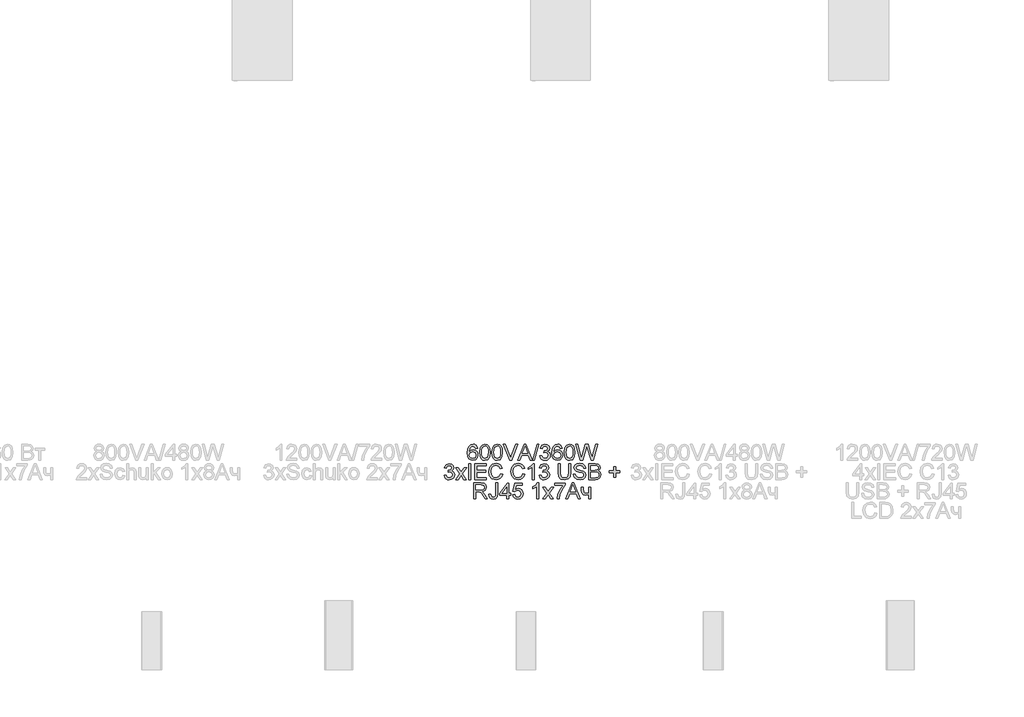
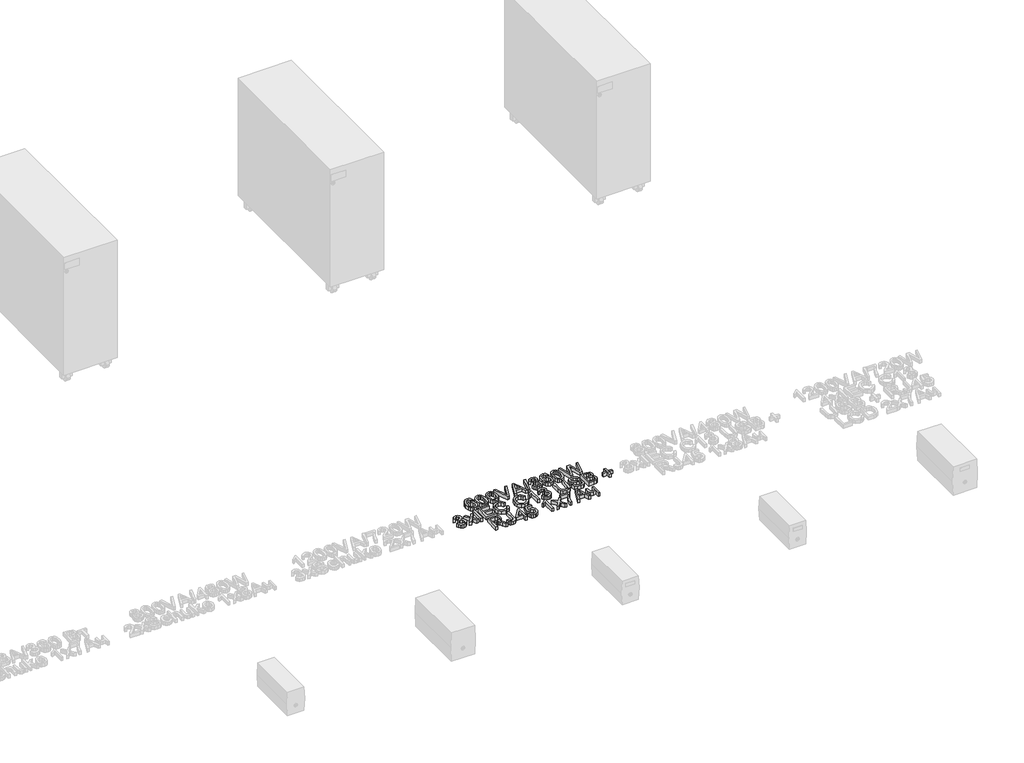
# One storey, part 39 of 74: 1 proxy.
"""IFC4 building model written with IfcOpenShell, lengths in millimetres."""

from ifc_helpers import new_model, si_unit, origin, origin_with_axes, place, context, project, spatial, polyline, outline, extrude, element, save

model = new_model("IFC4")

# Units and contexts
model_context = context("Model", 3, world=origin())
ifc_project = project(units=[si_unit("LENGTHUNIT", "METRE", prefix="MILLI")], contexts=[model_context])

# Site, building, storey
site = spatial("IfcSite", under=ifc_project)
building = spatial("IfcBuilding", under=site)
storey = spatial("IfcBuildingStorey", under=building, Name="Этаж 01", Elevation=0.0)

# Proxy
placement = place(None, origin())
element("IfcBuildingElementProxy", 1, Name="80 мм Arial", ObjectType="80 мм Arial", at=placement, inside=storey, context=model_context, shape_type="SweptSolid", body=[
    extrude(outline(polyline([(3936.3389235, -10967.6152437), (3926.2932925, -10968.8709476), (3922.4869401, -10960.4930483), (3912.4216887, -10956.3139089), (3903.3570764, -10958.7468351), (3896.499756, -10967.8801188), (3893.6449917, -10985.7837092), (3902.5035901, -10977.7687868), (3913.4811889, -10975.149467), (3922.7616253, -10976.9398261), (3930.5509135, -10982.3109032), (3935.8336989, -10990.5171242), (3937.5946274, -11000.812915), (3934.2787843, -11014.6747086), (3925.1553109, -11024.4848951), (3911.9900405, -11027.8890298), (3900.5930563, -11025.6326869), (3891.5161812, -11018.8636582), (3885.5785658, -11006.914851), (3883.5993607, -10989.1191726), (3885.7968425, -10969.1112972), (3892.3892878, -10955.4309921), (3901.390134, -10948.5589564), (3913.0495407, -10946.2682778), (3921.8639933, -10947.6858498), (3928.9224225, -10951.9385657), (3936.3389235, -10967.6152437)]), holes=[polyline([(3893.6449917, -11000.655952), (3895.9700059, -11009.3575875), (3902.1504234, -11015.6753476), (3911.2052256, -11017.8433988), (3923.0461208, -11013.3503334), (3927.5489964, -11001.1464613), (3923.1049819, -10989.4625292), (3910.7931978, -10985.195098), (3898.6383766, -10989.4625292), (3893.6449917, -11000.655952)])]), origin_with_axes(), (0.0, 0.0, 1.0), 20.0),
    extrude(outline(polyline([(3946.3845545, -10987.0982742), (3949.3374207, -10963.9756645), (3958.1077274, -10950.643621), (3972.7543359, -10946.2682778), (3984.487319, -10948.8581671), (3992.5905331, -10956.323719), (3997.2994227, -10968.2136651), (3999.1241174, -10987.0982742), (3996.2006818, -11010.122782), (3987.4598056, -11023.4842561), (3972.7543359, -11027.8890298), (3962.3162975, -11025.9760435), (3954.3896667, -11020.2370843), (3948.3858326, -11006.6450709), (3946.3845545, -10987.0982742)]), holes=[polyline([(3956.4301855, -10987.0786538), (3957.6074079, -11002.8804118), (3961.1390751, -11012.0259582), (3972.7543359, -11017.8433988), (3984.3695968, -11012.0063378), (3987.901264, -11002.8558863), (3989.0784863, -10987.0786538), (3987.9405047, -10971.6325151), (3984.5265598, -10962.4158449), (3979.27811, -10957.8393929), (3972.6366137, -10956.3139089), (3961.2960381, -10961.6898911), (3957.6466487, -10971.4804572), (3956.4301855, -10987.0786538)])]), origin_with_axes(), (0.0, 0.0, 1.0), 20.0),
    extrude(outline(polyline([(4007.9140445, -10987.0982742), (4010.8669106, -10963.9756645), (4019.6372174, -10950.643621), (4034.2838259, -10946.2682778), (4046.016809, -10948.8581671), (4054.1200231, -10956.323719), (4058.8289126, -10968.2136651), (4060.6536073, -10987.0982742), (4057.7301717, -11010.122782), (4048.9892955, -11023.4842561), (4034.2838259, -11027.8890298), (4023.8457874, -11025.9760435), (4015.9191567, -11020.2370843), (4009.9153225, -11006.6450709), (4007.9140445, -10987.0982742)]), holes=[polyline([(4017.9596755, -10987.0786538), (4019.1368979, -11002.8804118), (4022.668565, -11012.0259582), (4034.2838259, -11017.8433988), (4045.8990868, -11012.0063378), (4049.4307539, -11002.8558863), (4050.6079763, -10987.0786538), (4049.4699947, -10971.6325151), (4046.0560498, -10962.4158449), (4040.8076, -10957.8393929), (4034.1661037, -10956.3139089), (4022.825528, -10961.6898911), (4019.1761386, -10971.4804572), (4017.9596755, -10987.0786538)])]), origin_with_axes(), (0.0, 0.0, 1.0), 20.0),
    extrude(outline(polyline([(4096.9512975, -11026.633326), (4064.9700894, -10946.2682778), (4075.7220538, -10946.2682778), (4097.1278809, -11004.1679988), (4101.4639833, -11017.2155469), (4105.7412247, -11004.1679988), (4127.2059128, -10946.2682778), (4137.9578772, -10946.2682778), (4107.3304749, -11026.633326), (4096.9512975, -11026.633326)])), origin_with_axes(), (0.0, 0.0, 1.0), 20.0),
    extrude(outline(polyline([(4137.9382569, -11026.633326), (4170.0175668, -10946.2682778), (4178.5720495, -10946.2682778), (4210.6513595, -11026.633326), (4200.0367377, -11026.633326), (4190.8347827, -11001.5192484), (4157.7352133, -11001.5192484), (4148.5528787, -11026.633326), (4137.9382569, -11026.633326)]), holes=[polyline([(4161.4238434, -10991.4736174), (4187.1657729, -10991.4736174), (4179.9258553, -10971.7159017), (4174.2948082, -10956.3139089), (4169.291613, -10969.9893089), (4161.4238434, -10991.4736174)])]), origin_with_axes(), (0.0, 0.0, 1.0), 20.0),
    extrude(outline(polyline([(4212.5937764, -11026.633326), (4235.1964462, -10946.2682778), (4244.2610586, -10946.2682778), (4221.6583888, -11026.633326), (4212.5937764, -11026.633326)])), origin_with_axes(), (0.0, 0.0, 1.0), 20.0),
    extrude(outline(polyline([(4249.0091889, -11005.2863601), (4259.0548199, -11004.0306562), (4264.5975753, -11014.6060373), (4274.9669424, -11017.8433988), (4287.1708145, -11013.3895741), (4291.7031207, -11002.3629245), (4287.2100552, -10991.9739369), (4275.7909981, -10987.8634688), (4268.7472842, -10988.9622097), (4269.8656454, -10978.9165786), (4271.474516, -10979.0343009), (4282.8739528, -10976.150106), (4287.936009, -10967.2816974), (4284.2669993, -10959.423738), (4274.8099794, -10956.3139089), (4265.2352374, -10959.4531685), (4260.3105237, -10968.8709476), (4250.2648927, -10967.6152437), (4258.485829, -10951.8600842), (4274.4568127, -10946.2682778), (4286.5723931, -10949.0249403), (4295.0483943, -10956.5591635), (4297.98164, -10966.6930862), (4295.1955471, -10975.9539023), (4286.9549904, -10982.6052088), (4297.9031586, -10989.4723394), (4301.7487517, -11002.5395078), (4299.8259551, -11012.330074), (4294.0575654, -11020.5117696), (4285.3510249, -11026.0447148), (4274.6137757, -11027.8890298), (4264.901691, -11026.3144949), (4256.9946807, -11021.5908901), (4251.4960711, -11014.3656877), (4249.0091889, -11005.2863601)])), origin_with_axes(), (0.0, 0.0, 1.0), 20.0),
    extrude(outline(polyline([(4362.0225378, -10967.6152437), (4351.9769068, -10968.8709476), (4348.1705544, -10960.4930483), (4338.105303, -10956.3139089), (4329.0406906, -10958.7468351), (4322.1833702, -10967.8801188), (4319.328606, -10985.7837092), (4328.1872044, -10977.7687868), (4339.1648031, -10975.149467), (4348.4452396, -10976.9398261), (4356.2345277, -10982.3109032), (4361.5173132, -10990.5171242), (4363.2782416, -11000.812915), (4359.9623986, -11014.6747086), (4350.8389251, -11024.4848951), (4337.6736548, -11027.8890298), (4326.2766706, -11025.6326869), (4317.1997955, -11018.8636582), (4311.2621801, -11006.914851), (4309.2829749, -10989.1191726), (4311.4804567, -10969.1112972), (4318.0729021, -10955.4309921), (4327.0737482, -10948.5589564), (4338.7331549, -10946.2682778), (4347.5476075, -10947.6858498), (4354.6060367, -10951.9385657), (4362.0225378, -10967.6152437)]), holes=[polyline([(4319.328606, -11000.655952), (4321.6536202, -11009.3575875), (4327.8340377, -11015.6753476), (4336.8888399, -11017.8433988), (4348.729735, -11013.3503334), (4353.2326106, -11001.1464613), (4348.7885961, -10989.4625292), (4336.476812, -10985.195098), (4324.3219909, -10989.4625292), (4319.328606, -11000.655952)])]), origin_with_axes(), (0.0, 0.0, 1.0), 20.0),
    extrude(outline(polyline([(4372.0681688, -10987.0982742), (4375.0210349, -10963.9756645), (4383.7913417, -10950.643621), (4398.4379502, -10946.2682778), (4410.1709333, -10948.8581671), (4418.2741474, -10956.323719), (4422.9830369, -10968.2136651), (4424.8077316, -10987.0982742), (4421.884296, -11010.122782), (4413.1434198, -11023.4842561), (4398.4379502, -11027.8890298), (4387.9999117, -11025.9760435), (4380.073281, -11020.2370843), (4374.0694468, -11006.6450709), (4372.0681688, -10987.0982742)]), holes=[polyline([(4382.1137998, -10987.0786538), (4383.2910222, -11002.8804118), (4386.8226893, -11012.0259582), (4398.4379502, -11017.8433988), (4410.0532111, -11012.0063378), (4413.5848782, -11002.8558863), (4414.7621006, -10987.0786538), (4413.624119, -10971.6325151), (4410.210174, -10962.4158449), (4404.9617242, -10957.8393929), (4398.320228, -10956.3139089), (4386.9796523, -10961.6898911), (4383.3302629, -10971.4804572), (4382.1137998, -10987.0786538)])]), origin_with_axes(), (0.0, 0.0, 1.0), 20.0),
    extrude(outline(polyline([(4451.7465038, -11026.633326), (4429.8305471, -10946.2682778), (4440.1901041, -10946.2682778), (4452.9041059, -10999.0863222), (4456.8281805, -11015.3908522), (4461.0269403, -11000.969878), (4476.9586833, -10946.2682778), (4491.8897872, -10946.2682778), (4503.4658073, -10985.9210518), (4512.0791511, -11015.3908522), (4515.8855034, -10999.5572111), (4528.7172274, -10946.2682778), (4539.0767844, -10946.2682778), (4517.1412073, -11026.633326), (4506.4088632, -11026.633326), (4487.1416569, -10964.632947), (4484.4536658, -10955.9803625), (4481.4321283, -10966.3987806), (4463.8718944, -11026.633326), (4451.7465038, -11026.633326)])), origin_with_axes(), (0.0, 0.0, 1.0), 20.0),
    extrude(outline(polyline([(3767.4467521, -11102.8662143), (3777.4923831, -11101.6105105), (3783.0351385, -11112.1858915), (3793.4045057, -11115.4232531), (3805.6083777, -11110.9694284), (3810.1406839, -11099.9427787), (3805.6476185, -11089.5537912), (3794.2285613, -11085.443323), (3787.1848474, -11086.5420639), (3788.3032087, -11076.4964329), (3789.9120792, -11076.6141552), (3801.311516, -11073.7299603), (3806.3735723, -11064.8615517), (3802.7045625, -11057.0035923), (3793.2475427, -11053.8937631), (3783.6728006, -11057.0330228), (3778.748087, -11066.4508019), (3768.7024559, -11065.195098), (3776.9233923, -11049.4399384), (3792.894376, -11043.8481321), (3805.0099563, -11046.6047945), (3813.4859575, -11054.1390178), (3816.4192033, -11064.2729405), (3813.6331103, -11073.5337566), (3805.3925536, -11080.1850631), (3816.3407218, -11087.0521936), (3820.1863149, -11100.1193621), (3818.2635183, -11109.9099283), (3812.4951287, -11118.0916238), (3803.7885881, -11123.624569), (3793.0513389, -11125.4688841), (3783.3392543, -11123.8943492), (3775.4322439, -11119.1707444), (3769.9336344, -11111.945542), (3767.4467521, -11102.8662143)])), origin_with_axes(), (0.0, 0.0, 1.0), 20.0),
    extrude(outline(polyline([(3825.2091304, -11124.2131802), (3846.6738186, -11094.5471761), (3826.4648343, -11065.195098), (3838.5509841, -11065.195098), (3848.3023095, -11079.3217666), (3852.8542361, -11085.9926935), (3856.7979311, -11080.5382298), (3867.9030622, -11065.195098), (3879.989212, -11065.195098), (3858.7599684, -11094.5471761), (3879.2043971, -11124.2131802), (3867.1182473, -11124.2131802), (3854.8162734, -11106.3782611), (3852.5599305, -11103.1212792), (3837.2952802, -11124.2131802), (3825.2091304, -11124.2131802)])), origin_with_axes(), (0.0, 0.0, 1.0), 20.0),
    extrude(outline(polyline([(3890.505732, -11124.2131802), (3890.505732, -11043.8481321), (3900.551363, -11043.8481321), (3900.551363, -11124.2131802), (3890.505732, -11124.2131802)])), origin_with_axes(), (0.0, 0.0, 1.0), 20.0),
    extrude(outline(polyline([(3920.6426251, -11124.2131802), (3920.6426251, -11043.8481321), (3978.4050034, -11043.8481321), (3978.4050034, -11053.8937631), (3930.6882561, -11053.8937631), (3930.6882561, -11077.7521368), (3975.8935956, -11077.7521368), (3975.8935956, -11087.7977678), (3930.6882561, -11087.7977678), (3930.6882561, -11114.1675492), (3979.6607073, -11114.1675492), (3979.6607073, -11124.2131802), (3920.6426251, -11124.2131802)])), origin_with_axes(), (0.0, 0.0, 1.0), 20.0),
    extrude(outline(polyline([(4051.2358282, -11095.645917), (4061.2814593, -11098.2358063), (4056.6461461, -11109.9418114), (4049.3718928, -11118.4938415), (4039.8167711, -11123.7251235), (4028.3388529, -11125.4688841), (4007.4333454, -11120.1910038), (3995.1706122, -11104.9067331), (3990.9620422, -11083.4224246), (3995.7199826, -11061.5849494), (4009.2482299, -11047.4288502), (4028.554677, -11042.5924282), (4039.5690639, -11044.157153), (4048.6753696, -11048.8513273), (4055.5890985, -11056.3855505), (4060.0257554, -11066.4704223), (4049.9801244, -11068.8641078), (4041.7395677, -11056.5130829), (4028.1622695, -11052.6380593), (4012.4463507, -11056.934921), (4003.5681319, -11068.4717003), (4001.0076732, -11083.4028042), (4004.0390208, -11100.7079733), (4013.4764203, -11111.7640535), (4027.3382138, -11115.4232531), (4042.7107761, -11110.4396783), (4051.2358282, -11095.645917)])), origin_with_axes(), (0.0, 0.0, 1.0), 20.0),
    extrude(outline(polyline([(4162.9934733, -11095.645917), (4173.0391043, -11098.2358063), (4168.4037912, -11109.9418114), (4161.1295378, -11118.4938415), (4151.5744162, -11123.7251235), (4140.0964979, -11125.4688841), (4119.1909904, -11120.1910038), (4106.9282572, -11104.9067331), (4102.7196872, -11083.4224246), (4107.4776277, -11061.5849494), (4121.0058749, -11047.4288502), (4140.312322, -11042.5924282), (4151.3267089, -11044.157153), (4160.4330146, -11048.8513273), (4167.3467436, -11056.3855505), (4171.7834004, -11066.4704223), (4161.7377694, -11068.8641078), (4153.4972127, -11056.5130829), (4139.9199145, -11052.6380593), (4124.2039957, -11056.934921), (4115.3257769, -11068.4717003), (4112.7653182, -11083.4028042), (4115.7966659, -11100.7079733), (4125.2340653, -11111.7640535), (4139.0958589, -11115.4232531), (4154.4684212, -11110.4396783), (4162.9934733, -11095.645917)])), origin_with_axes(), (0.0, 0.0, 1.0), 20.0),
    extrude(outline(polyline([(4220.7558516, -11124.2131802), (4210.7102206, -11124.2131802), (4210.7102206, -11061.5849494), (4201.1943397, -11068.3637883), (4190.6189586, -11073.4356547), (4190.6189586, -11063.9393941), (4205.3440486, -11054.5412354), (4214.2811285, -11043.8481321), (4220.7558516, -11043.8481321), (4220.7558516, -11124.2131802)])), origin_with_axes(), (0.0, 0.0, 1.0), 20.0),
    extrude(outline(polyline([(4244.6142253, -11102.8662143), (4254.6598563, -11101.6105105), (4260.2026117, -11112.1858915), (4270.5719789, -11115.4232531), (4282.7758509, -11110.9694284), (4287.3081571, -11099.9427787), (4282.8150917, -11089.5537912), (4271.3960345, -11085.443323), (4264.3523206, -11086.5420639), (4265.4706819, -11076.4964329), (4267.0795525, -11076.6141552), (4278.4789892, -11073.7299603), (4283.5410455, -11064.8615517), (4279.8720357, -11057.0035923), (4270.4150159, -11053.8937631), (4260.8402738, -11057.0330228), (4255.9155602, -11066.4508019), (4245.8699292, -11065.195098), (4254.0908655, -11049.4399384), (4270.0618492, -11043.8481321), (4282.1774295, -11046.6047945), (4290.6534307, -11054.1390178), (4293.5866765, -11064.2729405), (4290.8005835, -11073.5337566), (4282.5600268, -11080.1850631), (4293.508195, -11087.0521936), (4297.3537881, -11100.1193621), (4295.4309916, -11109.9099283), (4289.6626019, -11118.0916238), (4280.9560613, -11123.624569), (4270.2188121, -11125.4688841), (4260.5067275, -11123.8943492), (4252.5997171, -11119.1707444), (4247.1011076, -11111.945542), (4244.6142253, -11102.8662143)])), origin_with_axes(), (0.0, 0.0, 1.0), 20.0),
    extrude(outline(polyline([(4394.0429866, -11043.8481321), (4404.0886176, -11043.8481321), (4404.0886176, -11090.2110737), (4401.3613858, -11109.4292291), (4391.5315789, -11121.0052492), (4372.8922245, -11125.4688841), (4354.5373654, -11121.5840502), (4344.3543918, -11110.3317663), (4341.3034238, -11090.2110737), (4341.3034238, -11043.8481321), (4351.3490548, -11043.8481321), (4351.3490548, -11089.857907), (4353.3307125, -11105.1716082), (4360.138982, -11112.7548824), (4371.9504465, -11115.4232531), (4382.1677558, -11114.103783), (4388.96131, -11110.1453727), (4392.7725675, -11102.4345661), (4394.0429866, -11089.857907), (4394.0429866, -11043.8481321)])), origin_with_axes(), (0.0, 0.0, 1.0), 20.0),
    extrude(outline(polyline([(4417.9013603, -11096.5876949), (4427.9469913, -11096.5876949), (4431.1843529, -11106.6431361), (4439.0913632, -11113.000137), (4451.1382723, -11115.4232531), (4461.6351719, -11113.5887482), (4468.4140108, -11108.5463123), (4470.6409231, -11101.8067142), (4468.9731914, -11095.538005), (4462.1453016, -11090.9762682), (4447.5183134, -11087.1404853), (4431.7729641, -11082.1863411), (4423.2282916, -11074.710979), (4420.412768, -11064.7242091), (4423.8953843, -11053.3542029), (4434.0685477, -11045.3294703), (4448.9604109, -11042.5924282), (4464.8529131, -11045.4570027), (4475.4479145, -11053.8741428), (4479.4308503, -11066.4508019), (4469.3852192, -11066.4508019), (4463.6953111, -11056.1304857), (4449.3528183, -11052.6380593), (4434.9710849, -11056.0912449), (4430.4583991, -11064.4299035), (4433.6565199, -11071.3951359), (4450.0591518, -11077.0065626), (4467.8352098, -11082.0489985), (4477.5571046, -11090.1914533), (4480.6865541, -11101.5516493), (4477.0862157, -11113.5691278), (4466.7266587, -11122.3394346), (4451.5306797, -11125.4688841), (4433.5878486, -11122.0941799), (4422.2374627, -11111.9308267), (4417.9013603, -11096.5876949)])), origin_with_axes(), (0.0, 0.0, 1.0), 20.0),
    extrude(outline(polyline([(4495.7550007, -11124.2131802), (4495.7550007, -11043.8481321), (4526.4216438, -11043.8481321), (4541.4410394, -11046.2123871), (4550.309448, -11053.4817353), (4553.517379, -11063.7628108), (4550.8195777, -11073.1511593), (4542.6673127, -11080.2635445), (4552.5657909, -11087.7585271), (4556.0287867, -11100.2567047), (4553.6645318, -11111.0577201), (4547.8078504, -11118.7489063), (4539.0669742, -11122.8299439), (4526.1861993, -11124.2131802), (4495.7550007, -11124.2131802)]), holes=[polyline([(4505.8006317, -11114.1675492), (4526.4020234, -11114.1675492), (4533.8577652, -11113.7751418), (4540.1657151, -11111.5874702), (4544.3448546, -11107.1238353), (4545.9831557, -11100.3548066), (4544.0603592, -11092.5458981), (4537.8308907, -11087.8860595), (4525.4210047, -11086.5420639), (4505.8006317, -11086.5420639), (4505.8006317, -11114.1675492)]), polyline([(4505.8006317, -11076.4964329), (4524.1456805, -11076.4964329), (4534.8584042, -11075.6331365), (4541.3036968, -11071.9150758), (4543.471748, -11065.3716814), (4541.4508496, -11058.8184768), (4535.6628395, -11054.9434531), (4522.752634, -11053.8937631), (4505.8006317, -11053.8937631), (4505.8006317, -11076.4964329)])]), origin_with_axes(), (0.0, 0.0, 1.0), 20.0),
    extrude(outline(polyline([(4620.0696845, -11111.6561415), (4620.0696845, -11090.3091756), (4598.7227186, -11090.3091756), (4598.7227186, -11080.2635445), (4620.0696845, -11080.2635445), (4620.0696845, -11058.9165786), (4630.1153155, -11058.9165786), (4630.1153155, -11080.2635445), (4651.4622814, -11080.2635445), (4651.4622814, -11090.3091756), (4630.1153155, -11090.3091756), (4630.1153155, -11111.6561415), (4620.0696845, -11111.6561415)])), origin_with_axes(), (0.0, 0.0, 1.0), 20.0),
    extrude(outline(polyline([(3917.5033654, -11221.7930345), (3917.5033654, -11141.4279864), (3952.1333238, -11141.4279864), (3968.2122196, -11143.5960376), (3977.0021467, -11151.2676035), (3980.2885592, -11163.4224246), (3974.8439057, -11177.9022599), (3958.0194358, -11185.3776221), (3963.7289643, -11189.6744838), (3971.8714192, -11200.0144204), (3985.272134, -11221.7930345), (3973.598012, -11221.7930345), (3963.1403531, -11205.1353378), (3955.5865095, -11194.1086881), (3950.2791986, -11188.8994791), (3945.5016377, -11186.9864927), (3939.6743869, -11186.633326), (3927.5489964, -11186.633326), (3927.5489964, -11221.7930345), (3917.5033654, -11221.7930345)]), holes=[polyline([(3927.5489964, -11176.5876949), (3950.0339439, -11176.5876949), (3961.502052, -11175.1652179), (3968.0160158, -11170.6132913), (3970.2429282, -11163.7952117), (3965.9951174, -11154.9464234), (3952.564972, -11151.4736174), (3927.5489964, -11151.4736174), (3927.5489964, -11176.5876949)])]), origin_with_axes(), (0.0, 0.0, 1.0), 20.0),
    extrude(outline(polyline([(3992.845598, -11199.2296055), (4002.891229, -11197.9346609), (4006.3247943, -11209.8049866), (4014.8007954, -11213.0031074), (4021.6777362, -11211.1882229), (4025.6606719, -11206.2438889), (4026.7496026, -11196.2865495), (4026.7496026, -11141.4279864), (4036.7952337, -11141.4279864), (4036.7952337, -11196.1099662), (4034.3721176, -11211.7179729), (4026.6809313, -11220.1449232), (4014.3299065, -11223.0487384), (4005.0445649, -11221.5502324), (3998.2215802, -11217.0547144), (3994.0816815, -11209.6014252), (3992.845598, -11199.2296055)])), origin_with_axes(), (0.0, 0.0, 1.0), 20.0),
    extrude(outline(polyline([(4083.2562771, -11221.7930345), (4083.2562771, -11202.9574764), (4046.8408647, -11202.9574764), (4046.8408647, -11192.9118453), (4085.7676849, -11142.6836903), (4093.3019081, -11142.6836903), (4093.3019081, -11192.9118453), (4103.3475391, -11192.9118453), (4103.3475391, -11202.9574764), (4093.3019081, -11202.9574764), (4093.3019081, -11221.7930345), (4083.2562771, -11221.7930345)]), holes=[polyline([(4083.2562771, -11192.9118453), (4083.2562771, -11161.8724151), (4059.2016997, -11192.9118453), (4083.2562771, -11192.9118453)])]), origin_with_axes(), (0.0, 0.0, 1.0), 20.0),
    extrude(outline(polyline([(4112.1374663, -11200.4460686), (4122.1830973, -11199.1903647), (4127.2451535, -11209.5401115), (4137.7420531, -11213.0031074), (4150.3383327, -11208.1863058), (4154.8313981, -11195.4036327), (4150.6228281, -11183.4744459), (4137.8990161, -11179.0991027), (4129.0796584, -11180.8453159), (4123.4388012, -11185.3776221), (4113.3931702, -11184.1219182), (4122.1830973, -11142.6836903), (4161.1099175, -11142.6836903), (4161.1099175, -11152.7293213), (4130.3059317, -11152.7293213), (4126.00907, -11174.8611021), (4140.7047295, -11169.0534717), (4150.0906254, -11170.8536409), (4157.8823661, -11176.2541486), (4163.1283634, -11184.4848951), (4164.8770291, -11194.7757808), (4163.3024942, -11204.8214118), (4158.5788893, -11213.4151352), (4149.5338974, -11220.6403376), (4137.7028124, -11223.0487384), (4127.8362173, -11221.5011815), (4119.9758053, -11216.8585107), (4114.5875604, -11209.6602863), (4112.1374663, -11200.4460686)])), origin_with_axes(), (0.0, 0.0, 1.0), 20.0),
    extrude(outline(polyline([(4242.7306695, -11221.7930345), (4232.6850385, -11221.7930345), (4232.6850385, -11159.1648037), (4223.1691575, -11165.9436426), (4212.5937764, -11171.015509), (4212.5937764, -11161.5192484), (4227.3188664, -11152.1210897), (4236.2559464, -11141.4279864), (4242.7306695, -11141.4279864), (4242.7306695, -11221.7930345)])), origin_with_axes(), (0.0, 0.0, 1.0), 20.0),
    extrude(outline(polyline([(4262.8219315, -11221.7930345), (4284.2866196, -11192.1270304), (4264.0776354, -11162.7749523), (4276.1637852, -11162.7749523), (4285.9151106, -11176.9016209), (4290.4670372, -11183.5725478), (4294.4107322, -11178.118084), (4305.5158633, -11162.7749523), (4317.6020131, -11162.7749523), (4296.3727695, -11192.1270304), (4316.8171982, -11221.7930345), (4304.7310484, -11221.7930345), (4292.4290745, -11203.9581154), (4290.1727316, -11200.7011335), (4274.9080813, -11221.7930345), (4262.8219315, -11221.7930345)])), origin_with_axes(), (0.0, 0.0, 1.0), 20.0),
    extrude(outline(polyline([(4323.0957176, -11152.7293213), (4323.0957176, -11142.6836903), (4375.8352804, -11142.6836903), (4375.8352804, -11150.8065247), (4360.8747459, -11172.4183657), (4349.4262583, -11199.9555593), (4345.6983874, -11221.7930345), (4335.6527564, -11221.7930345), (4339.6455023, -11199.1315036), (4350.6034806, -11173.5171066), (4365.7896494, -11152.7293213), (4323.0957176, -11152.7293213)])), origin_with_axes(), (0.0, 0.0, 1.0), 20.0),
    extrude(outline(polyline([(4379.0334012, -11221.7930345), (4411.1127112, -11141.4279864), (4419.6671939, -11141.4279864), (4451.7465038, -11221.7930345), (4441.131882, -11221.7930345), (4431.929927, -11196.678957), (4398.8303577, -11196.678957), (4389.6480231, -11221.7930345), (4379.0334012, -11221.7930345)]), holes=[polyline([(4402.5189878, -11186.633326), (4428.2609173, -11186.633326), (4421.0209996, -11166.8756103), (4415.3899525, -11151.4736174), (4410.3867574, -11165.1490174), (4402.5189878, -11186.633326)])]), origin_with_axes(), (0.0, 0.0, 1.0), 20.0),
    extrude(outline(polyline([(4457.4560324, -11162.7749523), (4467.5016634, -11162.7749523), (4467.5016634, -11174.0959076), (4468.3159089, -11184.7105294), (4472.2301733, -11190.4592987), (4479.9998411, -11192.9118453), (4493.8714448, -11189.8706875), (4493.8714448, -11162.7749523), (4503.9170759, -11162.7749523), (4503.9170759, -11221.7930345), (4493.8714448, -11221.7930345), (4493.8714448, -11199.5042907), (4477.31185, -11202.9574764), (4465.9222234, -11199.3571379), (4459.221866, -11190.5377802), (4457.4560324, -11179.059862), (4457.4560324, -11162.7749523)])), origin_with_axes(), (0.0, 0.0, 1.0), 20.0),
])

save(model, "model.ifc")
